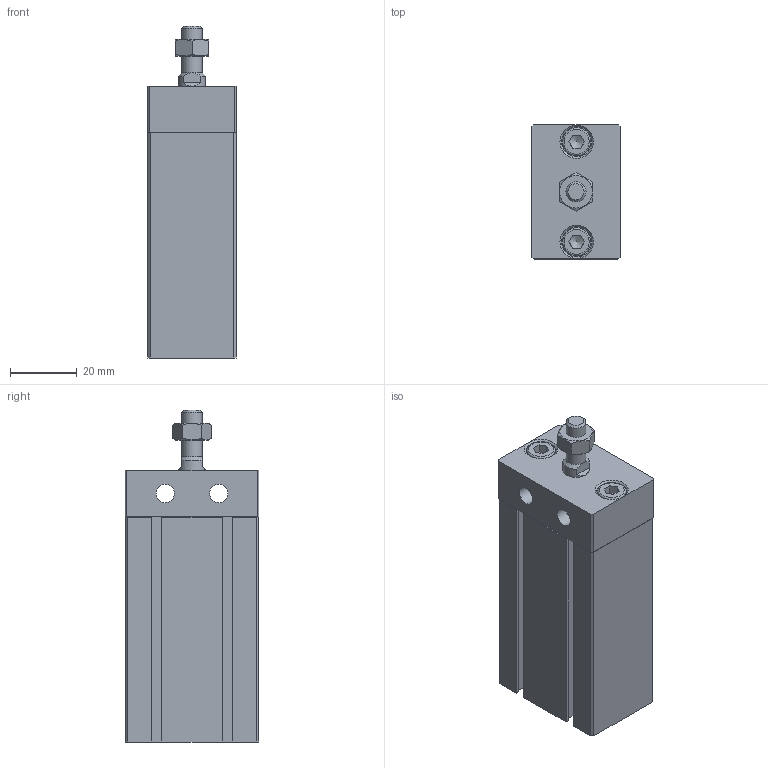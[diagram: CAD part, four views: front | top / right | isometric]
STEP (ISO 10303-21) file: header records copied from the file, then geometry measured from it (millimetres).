
FILE_DESCRIPTION((''),'2;1');
FILE_NAME('I:\3D電子目錄\氣缸\ND\ND\ND20-B\ND20x40-B.stp','2007-07-23T20:28:52',('Administrator'),(''),'Autodesk Inventor 11','Autodesk Inventor 11','');
FILE_SCHEMA(('AUTOMOTIVE_DESIGN { 1 0 10303 214 1 1 1 1 }'));
Length unit declared in the file: millimetre
Products named in the file (4): ND20-B; R 形環 22; ISO 4762 M5 x 12
Assembly tree (4 placements, depth 2):
  ND20-B
    ND20-B
    R 形環 22
    ISO 4762 M5 x 12  x2
Bounding box: 26.4 x 40.1 x 99.5 mm (x, y, z)
Volume: 77842.8 mm3; surface area: 20776.1 mm2
Topology: 5 solids, 5 shells, 170 faces, 420 edges, 269 vertices
Faces by surface type: plane 109, cylinder 28, cone 16, bspline 14, torus 3
Full cylindrical faces by diameter (mm): 1.5 x4, 5 x2, 5.5 x2, 6 x2, 8.5 x2, 9 x2, 13 x1, 21 x1
Entity records: 4613 total; most frequent: CARTESIAN_POINT 980, DIRECTION 710, ORIENTED_EDGE 692, EDGE_CURVE 346, VERTEX_POINT 244, VECTOR 238, LINE 238, AXIS2_PLACEMENT_3D 236
